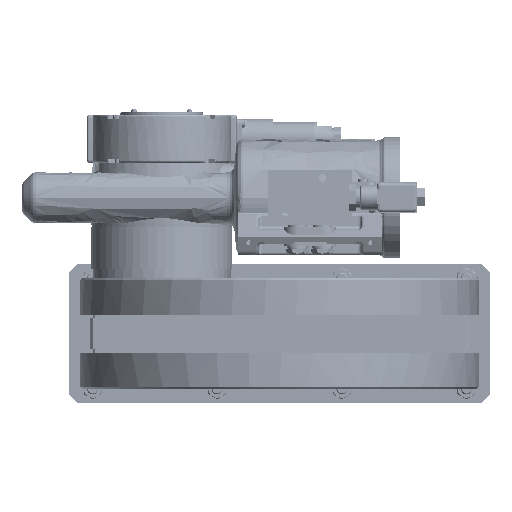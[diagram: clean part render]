
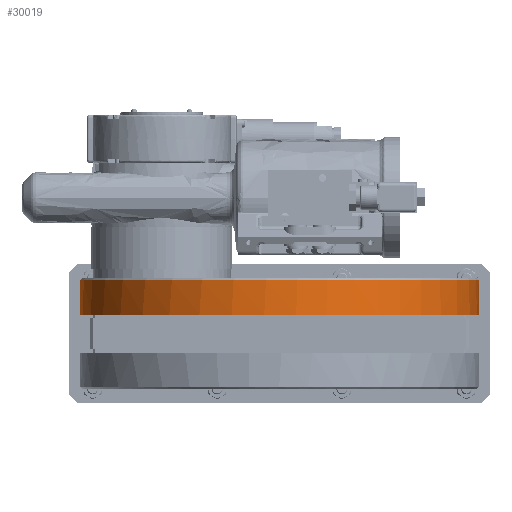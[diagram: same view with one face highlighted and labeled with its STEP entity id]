
A CAD part, front view. The second image highlights one B-rep face of the part: STEP entity #30019.
In plain terms, the highlighted free-form (B-spline) face has degree [2, 1] with [7, 2] control points.
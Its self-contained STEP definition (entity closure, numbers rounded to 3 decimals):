
#29678=CARTESIAN_POINT('V124',(143.9,
   -26.45,0.0));
#29679=VERTEX_POINT('V124',#29678);
#29680=CARTESIAN_POINT('E197',(143.9,
   -26.45,0.0));
#29681=CARTESIAN_POINT('E197',(143.9,
   -26.45,-249.242));
#29682=CARTESIAN_POINT('E197',(-71.95,
   -26.45,-124.621));
#29683=CARTESIAN_POINT('E197',(-287.8,
   -26.45,0.));
#29684=CARTESIAN_POINT('E197',(-71.95,
   -26.45,124.621));
#29685=CARTESIAN_POINT('E197',(143.9,
   -26.45,249.242));
#29686=CARTESIAN_POINT('E197',(143.9,
   -26.45,0.0));
#29694=(BOUNDED_CURVE()B_SPLINE_CURVE(2,(#29680,#29681,#29682,
   #29683,#29684,#29685,#29686),.CIRCULAR_ARC.,.T.,.U.)
   B_SPLINE_CURVE_WITH_KNOTS((3,2,2,3),(0.0,19.979,
   39.959,59.938),.UNSPECIFIED.)CURVE()
   GEOMETRIC_REPRESENTATION_ITEM()RATIONAL_B_SPLINE_CURVE((1.0,
   0.5,1.0,0.5,1.0,0.5,1.0)
   )REPRESENTATION_ITEM('E197'));
#29695=EDGE_CURVE('E197',#29679,#29679,#29694,.T.);
#29708=CARTESIAN_POINT('V148',(-143.869,-2.0,
   3.));
#29709=VERTEX_POINT('V148',#29708);
#29710=CARTESIAN_POINT('V149',(-143.869,
   -2.,-3.));
#29711=VERTEX_POINT('V149',#29710);
#29712=CARTESIAN_POINT('E229',(-143.869,
   -2.,3.));
#29713=CARTESIAN_POINT('E229',(-143.931,-2.0,
   0.));
#29714=CARTESIAN_POINT('E229',(-143.869,
   -2.,-3.));
#29722=(BOUNDED_CURVE()B_SPLINE_CURVE(2,(#29712,#29713,#29714),
   .CIRCULAR_ARC.,.F.,.U.)B_SPLINE_CURVE_WITH_KNOTS((3,3),(
   0.024,0.976),.UNSPECIFIED.)CURVE()
   GEOMETRIC_REPRESENTATION_ITEM()RATIONAL_B_SPLINE_CURVE((
   0.75,0.75,0.75))
   REPRESENTATION_ITEM('E229'));
#29723=EDGE_CURVE('E229',#29709,#29711,#29722,.T.);
#29762=CARTESIAN_POINT('V151',(143.9,
   -2.,0.));
#29763=VERTEX_POINT('V151',#29762);
#29764=CARTESIAN_POINT('V152',(143.869,
   -2.,3.));
#29765=VERTEX_POINT('V152',#29764);
#29766=CARTESIAN_POINT('E234',(143.9,
   -2.,0.));
#29767=CARTESIAN_POINT('E234',(143.9,
   -2.,1.5));
#29768=CARTESIAN_POINT('E234',(143.869,
   -2.,3.));
#29776=(BOUNDED_CURVE()B_SPLINE_CURVE(2,(#29766,#29767,#29768),
   .CIRCULAR_ARC.,.F.,.U.)B_SPLINE_CURVE_WITH_KNOTS((3,3),(0.0,
   0.953),.UNSPECIFIED.)CURVE()
   GEOMETRIC_REPRESENTATION_ITEM()RATIONAL_B_SPLINE_CURVE((1.0,
   0.994,0.988))REPRESENTATION_ITEM('E234')
   );
#29777=EDGE_CURVE('E234',#29763,#29765,#29776,.T.);
#29803=CARTESIAN_POINT('V150',(143.869,-2.0,
   -3.));
#29804=VERTEX_POINT('V150',#29803);
#29810=CARTESIAN_POINT('E232',(143.869,
   -2.,-3.));
#29811=CARTESIAN_POINT('E232',(143.9,
   -2.,-1.5));
#29812=CARTESIAN_POINT('E232',(143.9,
   -2.,0.));
#29820=(BOUNDED_CURVE()B_SPLINE_CURVE(2,(#29810,#29811,#29812),
   .CIRCULAR_ARC.,.F.,.U.)B_SPLINE_CURVE_WITH_KNOTS((3,3),(
   0.047,1.0),.UNSPECIFIED.)CURVE()
   GEOMETRIC_REPRESENTATION_ITEM()RATIONAL_B_SPLINE_CURVE((
   0.988,0.994,1.0))REPRESENTATION_ITEM(
   'E232'));
#29821=EDGE_CURVE('E232',#29804,#29763,#29820,.T.);
#29831=CARTESIAN_POINT('V142',(143.869,
   -1.5,3.));
#29832=VERTEX_POINT('V142',#29831);
#29853=CARTESIAN_POINT('E235',(143.869,
   -2.,3.));
#29854=CARTESIAN_POINT('E235',(143.869,
   -1.5,3.));
#29855=QUASI_UNIFORM_CURVE('E235',1,(#29853,#29854),.POLYLINE_FORM.,
   .F.,.U.);
#29856=EDGE_CURVE('E235',#29765,#29832,#29855,.T.);
#29885=CARTESIAN_POINT('V141',(-143.869,
   -1.5,3.));
#29886=VERTEX_POINT('V141',#29885);
#29908=CARTESIAN_POINT('E221',(-143.869,
   -1.5,3.));
#29909=CARTESIAN_POINT('E221',(-142.178,
   -1.5,84.075));
#29910=CARTESIAN_POINT('E221',(-71.95,
   -1.5,124.621));
#29911=CARTESIAN_POINT('E221',(138.795,
   -1.5,246.295));
#29912=CARTESIAN_POINT('E221',(143.869,
   -1.5,3.));
#29920=(BOUNDED_CURVE()B_SPLINE_CURVE(2,(#29908,#29909,#29910,
   #29911,#29912),.CIRCULAR_ARC.,.F.,.U.)B_SPLINE_CURVE_WITH_KNOTS(
   (3,2,3),(352.755,467.526,
   698.492),.UNSPECIFIED.)CURVE()
   GEOMETRIC_REPRESENTATION_ITEM()RATIONAL_B_SPLINE_CURVE((
   0.75,0.755,1.0,0.506,
   0.988))REPRESENTATION_ITEM('E221'));
#29921=EDGE_CURVE('E221',#29886,#29832,#29920,.T.);
#29932=CARTESIAN_POINT('E228',(-143.869,
   -1.5,3.));
#29933=CARTESIAN_POINT('E228',(-143.869,-2.0,
   3.));
#29934=QUASI_UNIFORM_CURVE('E228',1,(#29932,#29933),.POLYLINE_FORM.,
   .F.,.U.);
#29935=EDGE_CURVE('E228',#29886,#29709,#29934,.T.);
#29953=CARTESIAN_POINT('F109',(143.9,
   -26.45,0.0));
#29954=CARTESIAN_POINT('F109',(143.9,
   -26.45,-249.242));
#29955=CARTESIAN_POINT('F109',(-71.95,
   -26.45,-124.621));
#29956=CARTESIAN_POINT('F109',(-287.8,
   -26.45,0.));
#29957=CARTESIAN_POINT('F109',(-71.95,
   -26.45,124.621));
#29958=CARTESIAN_POINT('F109',(143.9,
   -26.45,249.242));
#29959=CARTESIAN_POINT('F109',(143.9,
   -26.45,0.0));
#29960=CARTESIAN_POINT('F109',(143.9,
   -1.5,0.0));
#29961=CARTESIAN_POINT('F109',(143.9,
   -1.5,-249.242));
#29962=CARTESIAN_POINT('F109',(-71.95,
   -1.5,-124.621));
#29963=CARTESIAN_POINT('F109',(-287.8,
   -1.5,0.));
#29964=CARTESIAN_POINT('F109',(-71.95,
   -1.5,124.621));
#29965=CARTESIAN_POINT('F109',(143.9,
   -1.5,249.242));
#29966=CARTESIAN_POINT('F109',(143.9,
   -1.5,0.0));
#29974=(BOUNDED_SURFACE()B_SPLINE_SURFACE(2,1,((#29953,#29960),(
   #29954,#29961),(#29955,#29962),(#29956,#29963),(#29957,
   #29964),(#29958,#29965),(#29959,#29966)),.CYLINDRICAL_SURF.,
   .T.,.F.,.U.)B_SPLINE_SURFACE_WITH_KNOTS((3,2,2,3),(2,2),(0.0,
   19.979,39.959,59.938),(0.0,
   1.0),.UNSPECIFIED.)GEOMETRIC_REPRESENTATION_ITEM()
   RATIONAL_B_SPLINE_SURFACE(((1.0,1.0),(0.5,
   0.5),(1.0,1.0),(0.5,
   0.5),(1.0,1.0),(0.5,
   0.5),(1.0,1.0)))REPRESENTATION_ITEM('F109')
   SURFACE());
#29975=ORIENTED_EDGE('E228',*,*,#29935,.F.);
#29976=ORIENTED_EDGE('F107',*,*,#29921,.T.);
#29977=ORIENTED_EDGE('F114',*,*,#29856,.F.);
#29978=ORIENTED_EDGE('E234',*,*,#29777,.F.);
#29979=CARTESIAN_POINT('E233',(143.9,
   -2.,0.0));
#29980=CARTESIAN_POINT('E233',(143.9,
   -26.45,0.0));
#29981=B_SPLINE_CURVE_WITH_KNOTS('E233',1,(#29979,#29980),
   .POLYLINE_FORM.,.F.,.U.,(2,2),(0.02,1.0),
   .UNSPECIFIED.);
#29982=EDGE_CURVE('E233',#29763,#29679,#29981,.T.);
#29983=ORIENTED_EDGE('E233',*,*,#29982,.T.);
#29984=ORIENTED_EDGE('F99',*,*,#29695,.F.);
#29985=ORIENTED_EDGE('E233',*,*,#29982,.F.);
#29986=ORIENTED_EDGE('F117',*,*,#29821,.F.);
#29987=CARTESIAN_POINT('V147',(143.869,
   -1.5,-3.));
#29988=VERTEX_POINT('V147',#29987);
#29989=CARTESIAN_POINT('E231',(143.869,
   -1.5,-3.));
#29990=CARTESIAN_POINT('E231',(143.869,-2.0,
   -3.));
#29991=QUASI_UNIFORM_CURVE('E231',1,(#29989,#29990),.POLYLINE_FORM.,
   .F.,.U.);
#29992=EDGE_CURVE('E231',#29988,#29804,#29991,.T.);
#29993=ORIENTED_EDGE('E231',*,*,#29992,.F.);
#29994=CARTESIAN_POINT('V144',(-143.869,
   -1.5,-3.));
#29995=VERTEX_POINT('V144',#29994);
#29996=CARTESIAN_POINT('E227',(143.869,
   -1.5,-3.));
#29997=CARTESIAN_POINT('E227',(138.795,
   -1.5,-246.295));
#29998=CARTESIAN_POINT('E227',(-71.95,
   -1.5,-124.621));
#29999=CARTESIAN_POINT('E227',(-142.178,
   -1.5,-84.075));
#30000=CARTESIAN_POINT('E227',(-143.869,
   -1.5,-3.));
#30008=(BOUNDED_CURVE()B_SPLINE_CURVE(2,(#29996,#29997,#29998,
   #29999,#30000),.CIRCULAR_ARC.,.F.,.U.)B_SPLINE_CURVE_WITH_KNOTS(
   (3,2,3),(2.797,233.763,
   348.534),.UNSPECIFIED.)CURVE()
   GEOMETRIC_REPRESENTATION_ITEM()RATIONAL_B_SPLINE_CURVE((
   0.988,0.506,1.0,0.755,
   0.75))REPRESENTATION_ITEM('E227'));
#30009=EDGE_CURVE('E227',#29988,#29995,#30008,.T.);
#30010=ORIENTED_EDGE('E227',*,*,#30009,.T.);
#30011=CARTESIAN_POINT('E230',(-143.869,
   -2.,-3.));
#30012=CARTESIAN_POINT('E230',(-143.869,
   -1.5,-3.));
#30013=QUASI_UNIFORM_CURVE('E230',1,(#30011,#30012),.POLYLINE_FORM.,
   .F.,.U.);
#30014=EDGE_CURVE('E230',#29711,#29995,#30013,.T.);
#30015=ORIENTED_EDGE('E230',*,*,#30014,.F.);
#30016=ORIENTED_EDGE('E229',*,*,#29723,.F.);
#30017=EDGE_LOOP('F109',(#29975,#29976,#29977,#29978,#29983,#29984,
   #29985,#29986,#29993,#30010,#30015,#30016));
#30018=FACE_OUTER_BOUND('F109',#30017,.F.);
#30019=ADVANCED_FACE('F109',(#30018),#29974,.T.);
